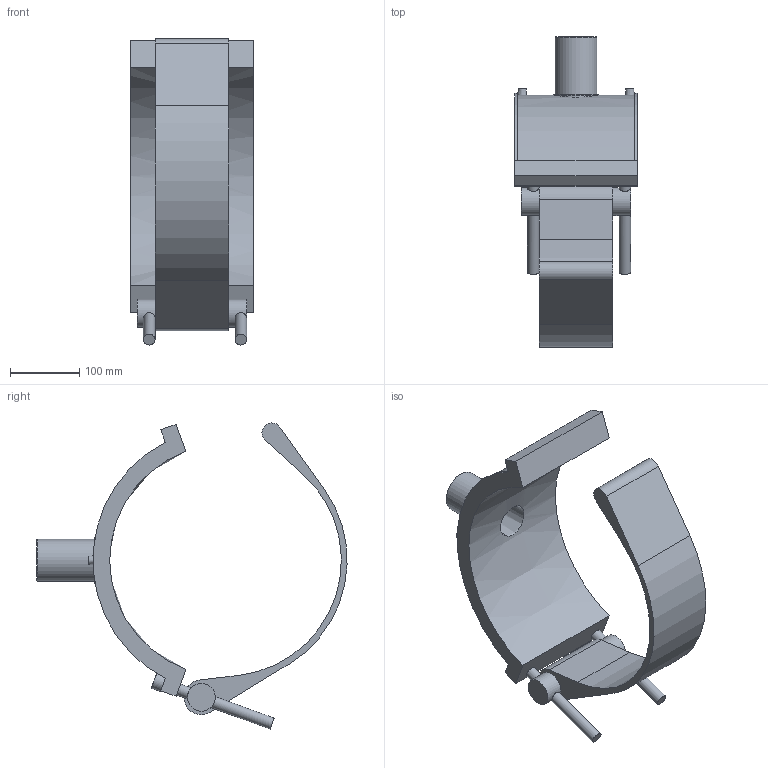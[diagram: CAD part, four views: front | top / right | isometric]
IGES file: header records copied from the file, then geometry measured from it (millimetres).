
Global section: file name: 5958DB03120020.ipt; native system: Autodesk Inventor 2019; preprocessor: unknown; author: KIM; date: 20210830.101327; units: inch
Bounding box: 176.02 x 446.93 x 441.01 mm (x, y, z)
Volume: 2884969.4 mm3; surface area: 392390.5 mm2
Topology: 1 solids, 1 shells, 59 faces, 132 edges, 89 vertices
Faces by surface type: plane 32, cylinder 18, revolution 6, cone 3
Full cylindrical faces by diameter (mm): 4 x2, 16.69 x4, 23.366 x2, 40.056 x2, 60.1 x1, 66.11 x1
